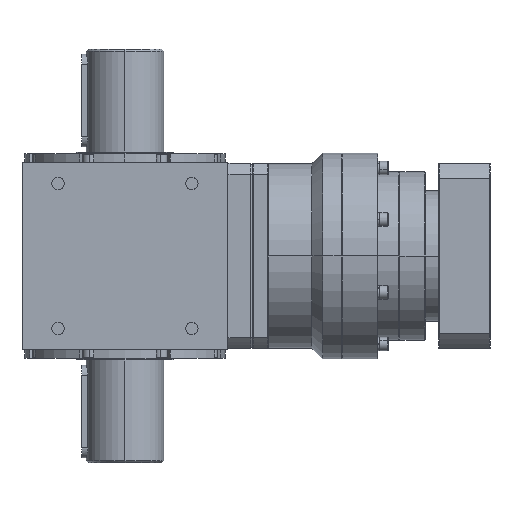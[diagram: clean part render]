
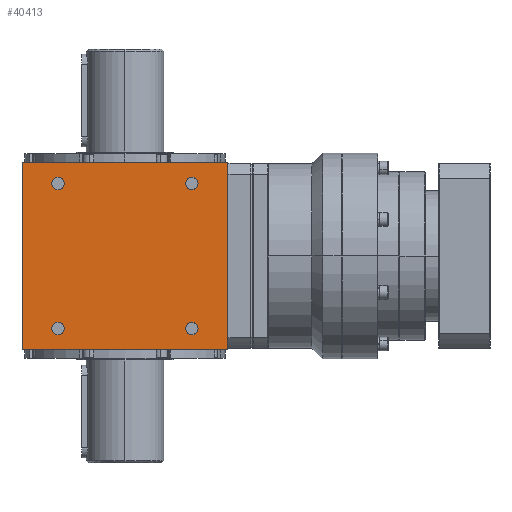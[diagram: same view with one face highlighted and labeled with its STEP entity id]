
A CAD part, left-side view. The second image highlights one B-rep face of the part: STEP entity #40413.
In plain terms, the highlighted planar face has unit normal (-1, 0, 0).
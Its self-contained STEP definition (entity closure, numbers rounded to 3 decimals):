
#296 = EDGE_LOOP ( 'NONE', ( #34588, #18251 ) ) ;
#565 = FACE_BOUND ( 'NONE', #27666, .T. ) ;
#702 = CARTESIAN_POINT ( 'NONE',  ( -100., 100., -91. ) ) ;
#1404 = AXIS2_PLACEMENT_3D ( 'NONE', #29344, #14834, #11566 ) ;
#1523 = EDGE_CURVE ( 'NONE', #28967, #45543, #19392, .T. ) ;
#1789 = DIRECTION ( 'NONE',  ( 0., -1., 0. ) ) ;
#1947 = EDGE_CURVE ( 'NONE', #35201, #8150, #11338, .T. ) ;
#2502 = VECTOR ( 'NONE', #7522, 1000. ) ;
#2724 = VERTEX_POINT ( 'NONE', #26030 ) ;
#3743 = CIRCLE ( 'NONE', #29893, 6. ) ;
#3779 = CARTESIAN_POINT ( 'NONE',  ( -100., -65., 70.5 ) ) ;
#3957 = DIRECTION ( 'NONE',  ( 1., 0., 0. ) ) ;
#4367 = DIRECTION ( 'NONE',  ( 0., -1., 0. ) ) ;
#5447 = ORIENTED_EDGE ( 'NONE', *, *, #36949, .T. ) ;
#6047 = CARTESIAN_POINT ( 'NONE',  ( -100., -100., -91. ) ) ;
#6676 = AXIS2_PLACEMENT_3D ( 'NONE', #17626, #7353, #24626 ) ;
#6796 = ORIENTED_EDGE ( 'NONE', *, *, #29849, .T. ) ;
#7353 = DIRECTION ( 'NONE',  ( 1., 0., 0. ) ) ;
#7522 = DIRECTION ( 'NONE',  ( 0., -1., 0. ) ) ;
#7535 = DIRECTION ( 'NONE',  ( 0., -1., 0. ) ) ;
#7951 = CARTESIAN_POINT ( 'NONE',  ( -100., 65., 70.5 ) ) ;
#8116 = EDGE_CURVE ( 'NONE', #24770, #44123, #19164, .T. ) ;
#8150 = VERTEX_POINT ( 'NONE', #36407 ) ;
#8220 = DIRECTION ( 'NONE',  ( 1., 0., 0. ) ) ;
#8360 = CARTESIAN_POINT ( 'NONE',  ( -100., -65., -70.5 ) ) ;
#8655 = CARTESIAN_POINT ( 'NONE',  ( -100., -59., 70.5 ) ) ;
#11338 = CIRCLE ( 'NONE', #35973, 6. ) ;
#11566 = DIRECTION ( 'NONE',  ( 0., -1., 0. ) ) ;
#12381 = CARTESIAN_POINT ( 'NONE',  ( -100., 0., 91. ) ) ;
#12387 = VERTEX_POINT ( 'NONE', #24012 ) ;
#12484 = ORIENTED_EDGE ( 'NONE', *, *, #45818, .T. ) ;
#13055 = CARTESIAN_POINT ( 'NONE',  ( -100., -65., -70.5 ) ) ;
#13488 = EDGE_CURVE ( 'NONE', #45543, #28967, #44983, .T. ) ;
#14834 = DIRECTION ( 'NONE',  ( -1., 0., 0. ) ) ;
#15013 = EDGE_LOOP ( 'NONE', ( #37226, #12484, #5447, #38313 ) ) ;
#15061 = FACE_BOUND ( 'NONE', #32191, .T. ) ;
#15530 = EDGE_CURVE ( 'NONE', #41373, #44839, #30893, .T. ) ;
#15883 = LINE ( 'NONE', #12381, #39847 ) ;
#16182 = CIRCLE ( 'NONE', #42968, 6. ) ;
#16309 = EDGE_LOOP ( 'NONE', ( #6796, #37515 ) ) ;
#16510 = CARTESIAN_POINT ( 'NONE',  ( -100., -59., -70.5 ) ) ;
#16553 = DIRECTION ( 'NONE',  ( 0., -1., 0. ) ) ;
#17339 = ORIENTED_EDGE ( 'NONE', *, *, #1523, .T. ) ;
#17626 = CARTESIAN_POINT ( 'NONE',  ( -100., 65., -70.5 ) ) ;
#18251 = ORIENTED_EDGE ( 'NONE', *, *, #15530, .T. ) ;
#18587 = CIRCLE ( 'NONE', #6676, 6. ) ;
#18646 = DIRECTION ( 'NONE',  ( 1., 0., 0. ) ) ;
#18876 = DIRECTION ( 'NONE',  ( 1., 0., 0. ) ) ;
#19028 = FACE_BOUND ( 'NONE', #16309, .T. ) ;
#19112 = CARTESIAN_POINT ( 'NONE',  ( -100., 65., -70.5 ) ) ;
#19164 = CIRCLE ( 'NONE', #34121, 6. ) ;
#19392 = CIRCLE ( 'NONE', #20908, 6. ) ;
#19573 = DIRECTION ( 'NONE',  ( 1., 0., 0. ) ) ;
#20308 = CARTESIAN_POINT ( 'NONE',  ( -100., 59., 70.5 ) ) ;
#20763 = LINE ( 'NONE', #35029, #22347 ) ;
#20908 = AXIS2_PLACEMENT_3D ( 'NONE', #29029, #8220, #7535 ) ;
#21409 = CARTESIAN_POINT ( 'NONE',  ( -100., -71., 70.5 ) ) ;
#22347 = VECTOR ( 'NONE', #38070, 1000. ) ;
#22424 = DIRECTION ( 'NONE',  ( 0., -1., 0. ) ) ;
#22715 = CARTESIAN_POINT ( 'NONE',  ( -100., -71., -70.5 ) ) ;
#24012 = CARTESIAN_POINT ( 'NONE',  ( -100., -100., 91. ) ) ;
#24028 = DIRECTION ( 'NONE',  ( 1., 0., 0. ) ) ;
#24626 = DIRECTION ( 'NONE',  ( 0., -1., 0. ) ) ;
#24770 = VERTEX_POINT ( 'NONE', #16510 ) ;
#25741 = CARTESIAN_POINT ( 'NONE',  ( -100., 100., -91. ) ) ;
#25798 = VECTOR ( 'NONE', #36029, 1000. ) ;
#25972 = LINE ( 'NONE', #25741, #25798 ) ;
#26030 = CARTESIAN_POINT ( 'NONE',  ( -100., 100., 91. ) ) ;
#26056 = PLANE ( 'NONE',  #1404 ) ;
#26899 = EDGE_CURVE ( 'NONE', #41271, #2724, #25972, .T. ) ;
#27610 = EDGE_CURVE ( 'NONE', #44123, #24770, #16182, .T. ) ;
#27666 = EDGE_LOOP ( 'NONE', ( #17339, #28400 ) ) ;
#28400 = ORIENTED_EDGE ( 'NONE', *, *, #13488, .T. ) ;
#28967 = VERTEX_POINT ( 'NONE', #20308 ) ;
#29029 = CARTESIAN_POINT ( 'NONE',  ( -100., 65., 70.5 ) ) ;
#29344 = CARTESIAN_POINT ( 'NONE',  ( -100., 100., -91. ) ) ;
#29849 = EDGE_CURVE ( 'NONE', #8150, #35201, #18587, .T. ) ;
#29893 = AXIS2_PLACEMENT_3D ( 'NONE', #30091, #18876, #1789 ) ;
#29933 = DIRECTION ( 'NONE',  ( 0., -1., 0. ) ) ;
#30091 = CARTESIAN_POINT ( 'NONE',  ( -100., -65., 70.5 ) ) ;
#30893 = CIRCLE ( 'NONE', #44335, 6. ) ;
#32191 = EDGE_LOOP ( 'NONE', ( #37422, #39761 ) ) ;
#32608 = FACE_OUTER_BOUND ( 'NONE', #15013, .T. ) ;
#32839 = FACE_BOUND ( 'NONE', #296, .T. ) ;
#33828 = DIRECTION ( 'NONE',  ( 0., -1., 0. ) ) ;
#34121 = AXIS2_PLACEMENT_3D ( 'NONE', #8360, #18646, #4367 ) ;
#34400 = CARTESIAN_POINT ( 'NONE',  ( -100., 71., 70.5 ) ) ;
#34588 = ORIENTED_EDGE ( 'NONE', *, *, #41742, .T. ) ;
#35029 = CARTESIAN_POINT ( 'NONE',  ( -100., -100., -91. ) ) ;
#35201 = VERTEX_POINT ( 'NONE', #44205 ) ;
#35973 = AXIS2_PLACEMENT_3D ( 'NONE', #19112, #19573, #33828 ) ;
#36029 = DIRECTION ( 'NONE',  ( 0., 0., 1. ) ) ;
#36032 = AXIS2_PLACEMENT_3D ( 'NONE', #7951, #3957, #22424 ) ;
#36407 = CARTESIAN_POINT ( 'NONE',  ( -100., 59., -70.5 ) ) ;
#36949 = EDGE_CURVE ( 'NONE', #43170, #12387, #20763, .T. ) ;
#37226 = ORIENTED_EDGE ( 'NONE', *, *, #26899, .F. ) ;
#37422 = ORIENTED_EDGE ( 'NONE', *, *, #27610, .T. ) ;
#37515 = ORIENTED_EDGE ( 'NONE', *, *, #1947, .T. ) ;
#38070 = DIRECTION ( 'NONE',  ( 0., 0., 1. ) ) ;
#38313 = ORIENTED_EDGE ( 'NONE', *, *, #45950, .F. ) ;
#39532 = LINE ( 'NONE', #40443, #2502 ) ;
#39761 = ORIENTED_EDGE ( 'NONE', *, *, #8116, .T. ) ;
#39847 = VECTOR ( 'NONE', #29933, 1000. ) ;
#40413 = ADVANCED_FACE ( 'NONE', ( #32608, #565, #32839, #15061, #19028 ), #26056, .T. ) ;
#40443 = CARTESIAN_POINT ( 'NONE',  ( -100., 0., -91. ) ) ;
#41271 = VERTEX_POINT ( 'NONE', #702 ) ;
#41373 = VERTEX_POINT ( 'NONE', #8655 ) ;
#41742 = EDGE_CURVE ( 'NONE', #44839, #41373, #3743, .T. ) ;
#42628 = DIRECTION ( 'NONE',  ( 1., 0., 0. ) ) ;
#42968 = AXIS2_PLACEMENT_3D ( 'NONE', #13055, #24028, #16553 ) ;
#43170 = VERTEX_POINT ( 'NONE', #6047 ) ;
#44123 = VERTEX_POINT ( 'NONE', #22715 ) ;
#44205 = CARTESIAN_POINT ( 'NONE',  ( -100., 71., -70.5 ) ) ;
#44335 = AXIS2_PLACEMENT_3D ( 'NONE', #3779, #42628, #45890 ) ;
#44839 = VERTEX_POINT ( 'NONE', #21409 ) ;
#44983 = CIRCLE ( 'NONE', #36032, 6. ) ;
#45543 = VERTEX_POINT ( 'NONE', #34400 ) ;
#45818 = EDGE_CURVE ( 'NONE', #41271, #43170, #39532, .T. ) ;
#45890 = DIRECTION ( 'NONE',  ( 0., -1., 0. ) ) ;
#45950 = EDGE_CURVE ( 'NONE', #2724, #12387, #15883, .T. ) ;
